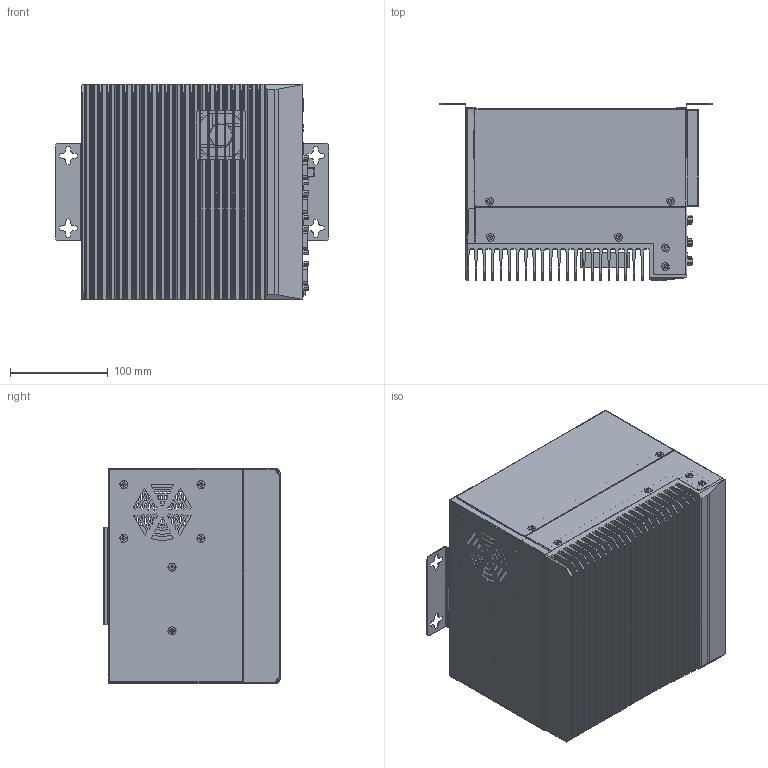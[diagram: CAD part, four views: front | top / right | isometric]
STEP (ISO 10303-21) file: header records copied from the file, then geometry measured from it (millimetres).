
FILE_DESCRIPTION (( 'STEP AP214' ), '1' );
FILE_NAME ('v336.STEP', '2023-08-18T03:10:24', ( '' ), ( '' ), 'SwSTEP 2.0', 'SolidWorks 2017', '' );
FILE_SCHEMA (( 'AUTOMOTIVE_DESIGN' ));
Length unit declared in the file: millimetre
Products named in the file (33): 4P-POWER_2; RIGHT-COVER_ASM_2_ASM_1; TOP_99_2; USB-2_1_1; MB_ASM_10_ASM_1; FAN-505015_5_1; 結え_1; MB-IO-1_ASM_1_ASM_1; DP-DP_1_ASM; GB823-88十字槽小盘头螺钉M3×5; MANIFOLD_SOLID_BREP_38783_1; POWER-SWITCH-1111_1_1; GB／T95-2002平垫圈C级3×0．5; D-COM-H-9PIN_1_1; RIGHT-COVER_70; 15-2L_4; LED_1_1; ZZJ_ASM_9_ASM_1; MANIFOLD_SOLID_BREP_38422_1; v336; RXE-2100_ASM_318_ASM; 3PIN_1_1; USB-3-LAN_1_1; POWER-11_1_1; _X2_FFFDFFFD0138_X0_1; COM-9PIN_2; SUPPORT-SPCC_1_1_1; GB／T819．1-2000十字槽沉头螺钉M4×14; VGA_1_1; ZZJ_118; COVER-SECC_43_1; AUDIO_1_1; IO-COVER_66
Assembly tree (83 placements, depth 5):
  v336
    RXE-2100_ASM_318_ASM
      TOP_99_2
      MB_ASM_10_ASM_1
        3PIN_1_1
        AUDIO_1_1
        USB-3-LAN_1_1  x3
        DP-DP_1_ASM
          MANIFOLD_SOLID_BREP_38422_1
          MANIFOLD_SOLID_BREP_38783_1
        VGA_1_1
        LED_1_1
        POWER-SWITCH-1111_1_1
        D-COM-H-9PIN_1_1
        POWER-11_1_1
      MB-IO-1_ASM_1_ASM_1
        4P-POWER_2
      ZZJ_ASM_9_ASM_1
        ZZJ_118
      RIGHT-COVER_ASM_2_ASM_1
        RIGHT-COVER_70
        15-2L_4  x6
      COVER-SECC_43_1
      SUPPORT-SPCC_1_1_1  x2
      FAN-505015_5_1
    _X2_FFFDFFFD0138_X0_1  x14
    GB／T819．1-2000十字槽沉头螺钉M4×14  x24
    GB／T95-2002平垫圈C级3×0．5
    GB823-88十字槽小盘头螺钉M3×5
    結え_1  x4
    COM-9PIN_2  x4
    USB-2_1_1  x2
    IO-COVER_66
Bounding box: 279.2 x 181 x 220.2 mm (x, y, z)
Topology: 74 solids, 91 shells, 4584 faces, 11401 edges, 7351 vertices
Faces by surface type: plane 2302, cylinder 1855, cone 208, bspline 99, torus 63, sphere 57
Entity records: 133174 total; most frequent: CARTESIAN_POINT 32514, ORIENTED_EDGE 15106, DIRECTION 14784, EDGE_CURVE 7562, AXIS2_PLACEMENT_3D 5167, VERTEX_POINT 4931, VECTOR 4450, LINE 4450
